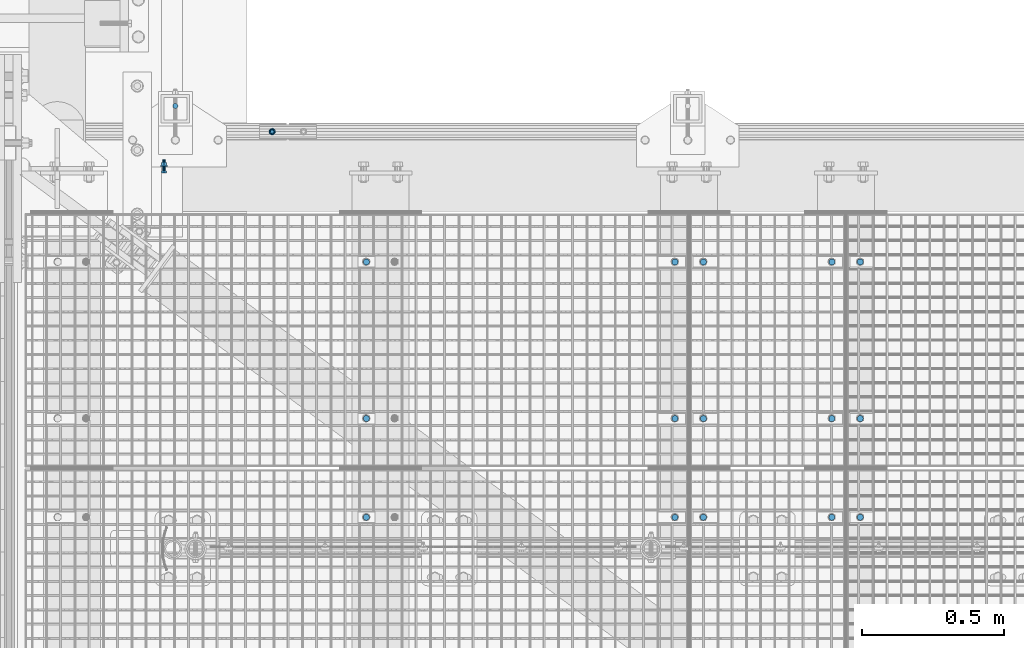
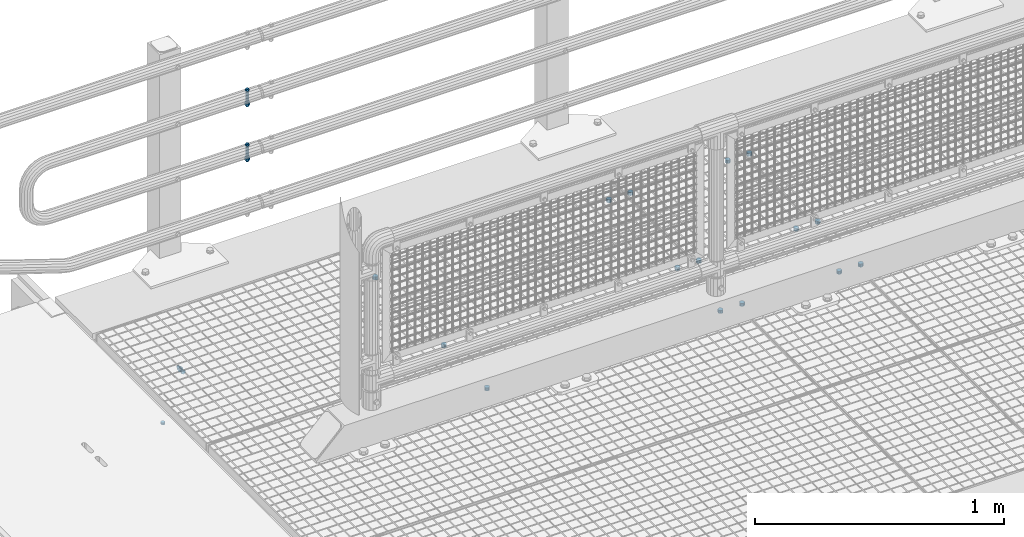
# One storey, part 74 of 1530: 19 mechanical fasteners.
"""IFC2X3 building model written with IfcOpenShell, lengths in millimetres."""

from ifc_helpers import new_model, si_unit, frame, origin_with_axes, place, context, subcontext, project, spatial, faceted_brep, source, transform, mapped, material, type_object, element, save


model = new_model("IFC2X3")

# Units and contexts
model_context = context("Model", 3, precision=1e-05, world=origin_with_axes())
body_context = subcontext(model_context, "Body", "Model", "MODEL_VIEW")
ifc_project = project(units=[si_unit("LENGTHUNIT", "METRE", prefix="MILLI"), si_unit("AREAUNIT", "SQUARE_METRE"), si_unit("VOLUMEUNIT", "CUBIC_METRE"), si_unit("MASSUNIT", "GRAM", prefix="KILO"), si_unit("TIMEUNIT", "SECOND"), si_unit("PLANEANGLEUNIT", "RADIAN"), si_unit("SOLIDANGLEUNIT", "STERADIAN"), si_unit("THERMODYNAMICTEMPERATUREUNIT", "DEGREE_CELSIUS"), si_unit("LUMINOUSINTENSITYUNIT", "LUMEN")], contexts=[model_context])

# Site, building, storey
site_placement = place(None, origin_with_axes())
site = spatial("IfcSite", under=ifc_project, at=site_placement, Name="Brattvåg", CompositionType="ELEMENT")
building_placement = place(site_placement, origin_with_axes())
building = spatial("IfcBuilding", under=site, at=building_placement, Name="Undefined", CompositionType="ELEMENT")
storey_placement = place(building_placement, origin_with_axes())
storey = spatial("IfcBuildingStorey", under=building, at=storey_placement, Name="Undefined", CompositionType="ELEMENT", Elevation=0.0)

# Mechanical fasteners
ifc_material = material(Name="8")
mechanical_fastener_type = type_object("IfcMechanicalFastenerType", Name="Bolt assembly")
shared_shape_1 = source(origin_with_axes(), body_context, "Body", "Brep", [
    faceted_brep([(10.3923048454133, -7.49999965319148, 0.0), (5.19615242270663, -7.49999965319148, 9.0), (-5.19615242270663, -7.49999965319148, 9.0), (-10.3923048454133, -7.49999965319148, 1.27269028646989e-15), (-5.19615242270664, -7.49999965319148, -9.0), (5.19615242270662, -7.49999965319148, -9.0), (5.19615242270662, 3.46808519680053e-07, -9.0), (-5.19615242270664, 3.46808519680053e-07, -9.0), (-10.3923048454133, 3.46808519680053e-07, 1.27269028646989e-15), (-5.19615242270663, 3.46808519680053e-07, 9.0), (5.19615242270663, 3.46808519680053e-07, 9.0), (10.3923048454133, 3.46808519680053e-07, 0.0), (6.0, 3.46808519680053e-07, 0.0), (5.19615242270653, 3.46808519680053e-07, 3.00000000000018), (2.99999999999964, 3.46808519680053e-07, 5.19615242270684), (-6.21801588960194e-13, 3.46808519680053e-07, 6.0), (-3.00000000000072, 3.46808519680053e-07, 5.19615242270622), (-5.19615242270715, 3.46808519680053e-07, 2.9999999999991), (-6.0, 3.46808519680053e-07, -1.24360317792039e-12), (-5.19615242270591, 3.46808519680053e-07, -3.00000000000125), (-2.99999999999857, 3.46808519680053e-07, -5.19615242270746), (1.85874342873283e-12, 3.46808519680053e-07, -6.0), (3.00000000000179, 3.46808519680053e-07, -5.1961524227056), (5.19615242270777, 3.46808519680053e-07, -2.99999999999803), (5.19615242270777, 40.0000003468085, -2.99999999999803), (3.00000000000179, 40.0000003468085, -5.1961524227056), (1.85874342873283e-12, 40.0000003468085, -6.0), (-2.99999999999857, 40.0000003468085, -5.19615242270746), (-5.19615242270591, 40.0000003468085, -3.00000000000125), (-6.0, 40.0000003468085, -1.24360317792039e-12), (-5.19615242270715, 40.0000003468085, 2.9999999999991), (-3.00000000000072, 40.0000003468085, 5.19615242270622), (-6.21801588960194e-13, 40.0000003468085, 6.0), (2.99999999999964, 40.0000003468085, 5.19615242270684), (5.19615242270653, 40.0000003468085, 3.00000000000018), (6.0, 40.0000003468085, 0.0), (12.0, 16.0000003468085, 0.0), (10.3923048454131, 16.0000003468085, 6.00000000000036), (5.99999999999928, 16.0000003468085, 10.3923048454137), (-1.24360317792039e-12, 16.0000003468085, 12.0), (-6.00000000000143, 16.0000003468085, 10.3923048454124), (-10.3923048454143, 16.0000003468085, 5.99999999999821), (-12.0, 16.0000003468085, -2.48720635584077e-12), (-10.3923048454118, 16.0000003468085, -6.00000000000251), (-5.99999999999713, 16.0000003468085, -10.3923048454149), (3.71748685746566e-12, 16.0000003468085, -12.0), (6.00000000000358, 16.0000003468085, -10.3923048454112), (10.3923048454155, 16.0000003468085, -5.99999999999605), (10.3923048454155, 18.5000003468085, -5.99999999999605), (6.00000000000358, 18.5000003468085, -10.3923048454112), (3.71748685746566e-12, 18.5000003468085, -12.0), (-5.99999999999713, 18.5000003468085, -10.3923048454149), (-10.3923048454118, 18.5000003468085, -6.00000000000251), (-12.0, 18.5000003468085, -2.48720635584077e-12), (-10.3923048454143, 18.5000003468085, 5.99999999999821), (-6.00000000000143, 18.5000003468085, 10.3923048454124), (-1.24360317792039e-12, 18.5000003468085, 12.0), (5.99999999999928, 18.5000003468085, 10.3923048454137), (10.3923048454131, 18.5000003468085, 6.00000000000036), (12.0, 18.5000003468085, 0.0), (10.3923048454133, 18.5000003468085, 0.0), (5.19615242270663, 18.5000003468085, 9.0), (-5.19615242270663, 18.5000003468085, 9.0), (-10.3923048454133, 18.5000003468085, 1.27269028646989e-15), (-5.19615242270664, 18.5000003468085, -9.0), (5.19615242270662, 18.5000003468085, -9.0), (5.19615242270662, 29.3000005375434, -9.0), (-5.19615242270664, 29.3000005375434, -9.0), (-10.3923048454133, 29.3000005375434, 1.27269028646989e-15), (-5.19615242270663, 29.3000005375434, 9.0), (5.19615242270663, 29.3000005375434, 9.0), (10.3923048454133, 29.3000005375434, 0.0)], [[[0, 1, 2, 3, 4, 5]], [[6, 7, 8, 9, 10, 11]], [[0, 11, 10, 1]], [[1, 10, 9, 2]], [[2, 9, 8, 3]], [[3, 8, 7, 4]], [[4, 7, 6, 5]], [[5, 6, 11, 0]], [[12, 13, 14, 15, 16, 17, 18, 19, 20, 21, 22, 23]], [[24, 25, 26, 27, 28, 29, 30, 31, 32, 33, 34, 35]], [[12, 35, 34, 13]], [[13, 34, 33, 14]], [[14, 33, 32, 15]], [[15, 32, 31, 16]], [[16, 31, 30, 17]], [[17, 30, 29, 18]], [[18, 29, 28, 19]], [[19, 28, 27, 20]], [[20, 27, 26, 21]], [[21, 26, 25, 22]], [[22, 25, 24, 23]], [[23, 24, 35, 12]], [[36, 37, 38, 39, 40, 41, 42, 43, 44, 45, 46, 47]], [[48, 49, 50, 51, 52, 53, 54, 55, 56, 57, 58, 59]], [[36, 59, 58, 37]], [[37, 58, 57, 38]], [[38, 57, 56, 39]], [[39, 56, 55, 40]], [[40, 55, 54, 41]], [[41, 54, 53, 42]], [[42, 53, 52, 43]], [[43, 52, 51, 44]], [[44, 51, 50, 45]], [[45, 50, 49, 46]], [[46, 49, 48, 47]], [[47, 48, 59, 36]], [[60, 61, 62, 63, 64, 65]], [[66, 67, 68, 69, 70, 71]], [[60, 71, 70, 61]], [[61, 70, 69, 62]], [[62, 69, 68, 63]], [[63, 68, 67, 64]], [[64, 67, 66, 65]], [[65, 66, 71, 60]]]),
    faceted_brep([(6.0, 3.46808519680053e-07, 0.0), (5.19615242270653, 3.46808519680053e-07, 3.00000000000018), (2.99999999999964, 3.46808519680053e-07, 5.19615242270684), (-6.21801588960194e-13, 3.46808519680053e-07, 6.0), (-3.00000000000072, 3.46808519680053e-07, 5.19615242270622), (-5.19615242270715, 3.46808519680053e-07, 2.9999999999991), (-6.0, 3.46808519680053e-07, -1.24360317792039e-12), (-5.19615242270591, 3.46808519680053e-07, -3.00000000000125), (-2.99999999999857, 3.46808519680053e-07, -5.19615242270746), (1.85874342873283e-12, 3.46808519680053e-07, -6.0), (3.00000000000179, 3.46808519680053e-07, -5.1961524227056), (5.19615242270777, 3.46808519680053e-07, -2.99999999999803), (5.19615242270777, 16.1000003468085, -2.99999999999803), (3.00000000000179, 16.1000003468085, -5.1961524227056), (1.85874342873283e-12, 16.1000003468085, -6.0), (-2.99999999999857, 16.1000003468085, -5.19615242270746), (-5.19615242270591, 16.1000003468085, -3.00000000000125), (-6.0, 16.1000003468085, -1.24360317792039e-12), (-5.19615242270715, 16.1000003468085, 2.9999999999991), (-3.00000000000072, 16.1000003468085, 5.19615242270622), (-6.21801588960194e-13, 16.1000003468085, 6.0), (2.99999999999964, 16.1000003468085, 5.19615242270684), (5.19615242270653, 16.1000003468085, 3.00000000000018), (6.0, 16.1000003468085, 0.0)], [[[0, 1, 2, 3, 4, 5, 6, 7, 8, 9, 10, 11]], [[12, 13, 14, 15, 16, 17, 18, 19, 20, 21, 22, 23]], [[0, 23, 22, 1]], [[1, 22, 21, 2]], [[2, 21, 20, 3]], [[3, 20, 19, 4]], [[4, 19, 18, 5]], [[5, 18, 17, 6]], [[6, 17, 16, 7]], [[7, 16, 15, 8]], [[8, 15, 14, 9]], [[9, 14, 13, 10]], [[10, 13, 12, 11]], [[11, 12, 23, 0]]]),
])
mechanical_fastener_1_placement = place(storey_placement, frame((510.0, 8991.99999965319, -445.0), z_axis=(-1.0, 1.99999855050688e-09, 0.0), x_axis=(0.0, 0.0, 1.0)))
element("IfcMechanicalFastener", 1, at=mechanical_fastener_1_placement, inside=storey, type_object=mechanical_fastener_type, material=ifc_material, Name="Bolt assembly", NominalDiameter=12.0, NominalLength=40.0, context=body_context, shape_type="MappedRepresentation", body=[
    mapped(shared_shape_1, transform((0.0, 0.0, 0.0))),
])
shared_shape_2 = source(origin_with_axes(), body_context, "Body", "Brep", [
    faceted_brep([(11.0, -4.99999999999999, 0.0), (9.52627944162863, -4.99999999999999, 5.50000000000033), (5.49999999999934, -4.99999999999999, 9.5262794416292), (-1.13996957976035e-12, -4.99999999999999, 11.0), (-5.50000000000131, -4.99999999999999, 9.52627944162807), (-9.52627944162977, -4.99999999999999, 5.49999999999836), (-11.0, -4.99999999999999, -2.27993915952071e-12), (-9.5262794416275, -4.99999999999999, -5.5000000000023), (-5.49999999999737, -4.99999999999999, -9.52627944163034), (3.40769628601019e-12, -4.99999999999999, -11.0), (5.50000000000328, -4.99999999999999, -9.52627944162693), (9.52627944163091, -4.99999999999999, -5.49999999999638), (9.52627944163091, 10.1, -5.49999999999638), (5.50000000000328, 10.1, -9.52627944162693), (3.40769628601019e-12, 10.1, -11.0), (-5.49999999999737, 10.1, -9.52627944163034), (-9.5262794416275, 10.1, -5.5000000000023), (-11.0, 10.1, -2.27993915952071e-12), (-9.52627944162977, 10.1, 5.49999999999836), (-5.50000000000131, 10.1, 9.52627944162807), (-1.13996957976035e-12, 10.1, 11.0), (5.49999999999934, 10.1, 9.5262794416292), (9.52627944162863, 10.1, 5.50000000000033), (11.0, 10.1, 0.0)], [[[0, 1, 2, 3, 4, 5, 6, 7, 8, 9, 10, 11]], [[12, 13, 14, 15, 16, 17, 18, 19, 20, 21, 22, 23]], [[0, 23, 22, 1]], [[1, 22, 21, 2]], [[2, 21, 20, 3]], [[3, 20, 19, 4]], [[4, 19, 18, 5]], [[5, 18, 17, 6]], [[6, 17, 16, 7]], [[7, 16, 15, 8]], [[8, 15, 14, 9]], [[9, 14, 13, 10]], [[10, 13, 12, 11]], [[11, 12, 23, 0]]]),
])
for number, where, z_axis, x_axis, name in (
    (2, (2856.01522064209, 8121.91931152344, -35.0), (0.0, -1.0, 0.0), (-1.0, 1.99999855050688e-09, 0.0), "Bolt assembly"),
    (3, (2856.01522064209, 8671.99411010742, -35.0), (0.0, -1.0, 0.0), (-1.0, 1.99999855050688e-09, 0.0), "Bolt assembly"),
    (4, (2405.00477935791, 8121.91931152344, -35.0), (0.0, 1.0, 0.0), (1.0, 0.0, 0.0), "Bolt assembly"),
    (5, (2405.00477935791, 8671.99411010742, -35.0), (0.0, 1.0, 0.0), (1.0, 0.0, 0.0), "Bolt assembly"),
    (6, (2305.01487731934, 8671.99411010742, -35.0), (0.0, -1.0, 0.0), (-1.0, 1.99999855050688e-09, 0.0), "Bolt assembly"),
    (7, (2305.01487731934, 8121.9204864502, -35.0), (0.0, -1.0, 0.0), (-1.0, 1.99999855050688e-09, 0.0), "Bolt assembly"),
    (8, (1220.93456069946, 8671.99565124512, -35.0), (0.0, -1.0, 0.0), (-1.0, 1.99999855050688e-09, 0.0), "Bolt assembly"),
    (9, (1220.93192543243, 8121.99, -35.0), (0.0, -1.0, 0.0), (-1.0, 1.99999855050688e-09, 0.0), "Bolt assembly"),
    (10, (2856.01522064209, 7774.99411010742, -35.0), (0.0, -1.0, 0.0), (-1.0, 1.99999855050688e-09, 0.0), "Bolt assembly"),
    (11, (2405.00477935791, 7774.99411010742, -35.0), (0.0, 1.0, 0.0), (1.0, 0.0, 0.0), "Bolt assembly"),
    (12, (2305.01487731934, 7774.99411010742, -35.0), (0.0, -1.0, 0.0), (-1.0, 1.99999855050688e-09, 0.0), "Bolt assembly"),
    (13, (1220.93456069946, 7774.99565124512, -35.0), (0.0, -1.0, 0.0), (-1.0, 1.99999855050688e-09, 0.0), "Bolt assembly"),
    (14, (2956.00477935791, 8121.98931152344, -35.0), (0.0, 1.0, 0.0), (1.0, 0.0, 0.0), "Bolt assembly"),
    (15, (2956.00477935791, 8671.99411010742, -35.0), (0.0, 1.0, 0.0), (1.0, 0.0, 0.0), "Bolt assembly"),
    (16, (2956.00477935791, 7774.99411010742, -35.0), (0.0, 1.0, 0.0), (1.0, 0.0, 0.0), "Bolt assembly"),
):
    element("IfcMechanicalFastener", number, at=place(storey_placement, frame(where, z_axis=z_axis, x_axis=x_axis)), inside=storey, type_object=mechanical_fastener_type, material=ifc_material, Name=name, NominalDiameter=20.0, NominalLength=15.0, context=body_context, shape_type="MappedRepresentation", body=[
        mapped(shared_shape_2, transform((0.0, 0.0, 0.0))),
    ])
shared_shape_3 = source(origin_with_axes(), body_context, "Body", "Brep", [
    faceted_brep([(9.0, -0.000108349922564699, 0.0), (7.79422863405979, -0.000108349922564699, 4.50000000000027), (4.49999999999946, -0.000108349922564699, 7.79422863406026), (-9.3270238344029e-13, -0.000108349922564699, 9.0), (-4.50000000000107, -0.000108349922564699, 7.79422863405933), (-7.79422863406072, -0.000108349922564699, 4.49999999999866), (-9.0, -0.000108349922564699, -1.86540476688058e-12), (-7.79422863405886, -0.000108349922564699, -4.50000000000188), (-4.49999999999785, -0.000108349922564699, -7.79422863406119), (2.78811514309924e-12, -0.000108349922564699, -9.0), (4.50000000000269, -0.000108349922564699, -7.7942286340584), (7.79422863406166, -0.000108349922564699, -4.49999999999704), (7.79422863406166, 10.0998916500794, -4.49999999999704), (4.50000000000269, 10.0998916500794, -7.7942286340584), (2.78811514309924e-12, 10.0998916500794, -9.0), (-4.49999999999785, 10.0998916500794, -7.79422863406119), (-7.79422863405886, 10.0998916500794, -4.50000000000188), (-9.0, 10.0998916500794, -1.86540476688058e-12), (-7.79422863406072, 10.0998916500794, 4.49999999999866), (-4.50000000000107, 10.0998916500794, 7.79422863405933), (-9.3270238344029e-13, 10.0998916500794, 9.0), (4.49999999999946, 10.0998916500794, 7.79422863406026), (7.79422863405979, 10.0998916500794, 4.50000000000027), (9.0, 10.0998916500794, 0.0)], [[[0, 1, 2, 3, 4, 5, 6, 7, 8, 9, 10, 11]], [[12, 13, 14, 15, 16, 17, 18, 19, 20, 21, 22, 23]], [[0, 23, 22, 1]], [[1, 22, 21, 2]], [[2, 21, 20, 3]], [[3, 20, 19, 4]], [[4, 19, 18, 5]], [[5, 18, 17, 6]], [[6, 17, 16, 7]], [[7, 16, 15, 8]], [[8, 15, 14, 9]], [[9, 14, 13, 10]], [[10, 13, 12, 11]], [[11, 12, 23, 0]]]),
])
mechanical_fastener_2_placement = place(storey_placement, frame((550.000160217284, 9219.99992874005, -855.000061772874), z_axis=(-1.0, 1.99999855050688e-09, 0.0), x_axis=(0.0, -0.99999999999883, 1.53000000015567e-06)))
element("IfcMechanicalFastener", 17, at=mechanical_fastener_2_placement, inside=storey, type_object=mechanical_fastener_type, material=ifc_material, Name="Bolt assembly", NominalDiameter=16.0, NominalLength=10.0001087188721, context=body_context, shape_type="MappedRepresentation", body=[
    mapped(shared_shape_3, transform((0.0, 0.0, 0.0))),
])
shared_shape_4 = source(origin_with_axes(), body_context, "Body", "Brep", [
    faceted_brep([(6.49435320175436, -7.79994685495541, 0.0), (4.59220118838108, -7.79994685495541, 4.59220118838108), (3.97664443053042e-16, -7.79994685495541, 6.49435320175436), (-4.59220118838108, -7.79994685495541, 4.59220118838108), (-6.49435320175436, -7.79994685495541, 7.95328886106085e-16), (-4.59220118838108, -7.79994685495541, -4.59220118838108), (-1.19299332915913e-15, -7.79994685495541, -6.49435320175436), (4.59220118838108, -7.79994685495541, -4.59220118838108), (7.34846922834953, -0.299946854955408, -7.34846922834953), (-1.90903542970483e-15, -0.299946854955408, -10.3923048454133), (-7.34846922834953, -0.299946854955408, -7.34846922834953), (-10.3923048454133, -0.299946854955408, 1.27269028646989e-15), (-7.34846922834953, -0.299946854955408, 7.34846922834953), (6.36345143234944e-16, -0.299946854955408, 10.3923048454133), (7.34846922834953, -0.299946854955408, 7.34846922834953), (10.3923048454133, -0.299946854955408, 0.0), (6.0, -0.299946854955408, 0.0), (5.19615242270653, -0.299946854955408, 3.00000000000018), (2.99999999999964, -0.299946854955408, 5.19615242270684), (-6.21801588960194e-13, -0.299946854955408, 6.0), (-3.00000000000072, -0.299946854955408, 5.19615242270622), (-5.19615242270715, -0.299946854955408, 2.9999999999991), (-6.0, -0.299946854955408, -1.24360317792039e-12), (-5.19615242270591, -0.299946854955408, -3.00000000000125), (-2.99999999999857, -0.299946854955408, -5.19615242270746), (1.85874342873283e-12, -0.299946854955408, -6.0), (3.00000000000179, -0.299946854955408, -5.1961524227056), (5.19615242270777, -0.299946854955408, -2.99999999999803), (5.19615242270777, 79.7000531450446, -2.99999999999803), (3.00000000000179, 79.7000531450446, -5.1961524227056), (1.85874342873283e-12, 79.7000531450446, -6.0), (-2.99999999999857, 79.7000531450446, -5.19615242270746), (-5.19615242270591, 79.7000531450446, -3.00000000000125), (-6.0, 79.7000531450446, -1.24360317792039e-12), (-5.19615242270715, 79.7000531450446, 2.9999999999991), (-3.00000000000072, 79.7000531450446, 5.19615242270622), (-6.21801588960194e-13, 79.7000531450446, 6.0), (2.99999999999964, 79.7000531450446, 5.19615242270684), (5.19615242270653, 79.7000531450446, 3.00000000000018), (6.0, 79.7000531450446, 0.0), (12.0, 59.9989488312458, 0.0), (10.3923048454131, 59.9989488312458, 6.00000000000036), (5.99999999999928, 59.9989488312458, 10.3923048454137), (-1.24360317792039e-12, 59.9989488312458, 12.0), (-6.00000000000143, 59.9989488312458, 10.3923048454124), (-10.3923048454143, 59.9989488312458, 5.99999999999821), (-12.0, 59.9989488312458, -2.48720635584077e-12), (-10.3923048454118, 59.9989488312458, -6.00000000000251), (-5.99999999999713, 59.9989488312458, -10.3923048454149), (3.71748685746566e-12, 59.9989488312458, -12.0), (6.00000000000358, 59.9989488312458, -10.3923048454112), (10.3923048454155, 59.9989488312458, -5.99999999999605), (10.3923048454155, 62.4989488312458, -5.99999999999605), (6.00000000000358, 62.4989488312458, -10.3923048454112), (3.71748685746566e-12, 62.4989488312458, -12.0), (-5.99999999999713, 62.4989488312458, -10.3923048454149), (-10.3923048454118, 62.4989488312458, -6.00000000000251), (-12.0, 62.4989488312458, -2.48720635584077e-12), (-10.3923048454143, 62.4989488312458, 5.99999999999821), (-6.00000000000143, 62.4989488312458, 10.3923048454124), (-1.24360317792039e-12, 62.4989488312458, 12.0), (5.99999999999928, 62.4989488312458, 10.3923048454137), (10.3923048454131, 62.4989488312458, 6.00000000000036), (12.0, 62.4989488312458, 0.0), (10.9696551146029, 62.4989488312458, 0.0), (5.48482755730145, 62.4989488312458, 9.5), (-5.48482755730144, 62.4989488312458, 9.5), (-10.9696551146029, 62.4989488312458, 1.34339530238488e-15), (-5.48482755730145, 62.4989488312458, -9.5), (5.48482755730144, 62.4989488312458, -9.5), (5.48482755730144, 73.2989490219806, -9.5), (-5.48482755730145, 73.2989490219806, -9.5), (-10.9696551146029, 73.2989490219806, 1.34339530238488e-15), (-5.48482755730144, 73.2989490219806, 9.5), (5.48482755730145, 73.2989490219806, 9.5), (10.9696551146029, 73.2989490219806, 0.0)], [[[0, 1, 2, 3, 4, 5, 6, 7]], [[8, 9, 10, 11, 12, 13, 14, 15]], [[0, 15, 14, 1]], [[1, 14, 13, 2]], [[2, 13, 12, 3]], [[3, 12, 11, 4]], [[4, 11, 10, 5]], [[5, 10, 9, 6]], [[6, 9, 8, 7]], [[7, 8, 15, 0]], [[16, 17, 18, 19, 20, 21, 22, 23, 24, 25, 26, 27]], [[28, 29, 30, 31, 32, 33, 34, 35, 36, 37, 38, 39]], [[16, 39, 38, 17]], [[17, 38, 37, 18]], [[18, 37, 36, 19]], [[19, 36, 35, 20]], [[20, 35, 34, 21]], [[21, 34, 33, 22]], [[22, 33, 32, 23]], [[23, 32, 31, 24]], [[24, 31, 30, 25]], [[25, 30, 29, 26]], [[26, 29, 28, 27]], [[27, 28, 39, 16]], [[40, 41, 42, 43, 44, 45, 46, 47, 48, 49, 50, 51]], [[52, 53, 54, 55, 56, 57, 58, 59, 60, 61, 62, 63]], [[40, 63, 62, 41]], [[41, 62, 61, 42]], [[42, 61, 60, 43]], [[43, 60, 59, 44]], [[44, 59, 58, 45]], [[45, 58, 57, 46]], [[46, 57, 56, 47]], [[47, 56, 55, 48]], [[48, 55, 54, 49]], [[49, 54, 53, 50]], [[50, 53, 52, 51]], [[51, 52, 63, 40]], [[64, 65, 66, 67, 68, 69]], [[70, 71, 72, 73, 74, 75]], [[64, 75, 74, 65]], [[65, 74, 73, 66]], [[66, 73, 72, 67]], [[67, 72, 71, 68]], [[68, 71, 70, 69]], [[69, 70, 75, 64]]]),
    faceted_brep([(6.5, -0.199946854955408, 0.0), (5.62916512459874, -0.199946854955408, 3.25000000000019), (3.24999999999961, -0.199946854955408, 5.62916512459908), (-6.7361838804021e-13, -0.199946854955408, 6.5), (-3.25000000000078, -0.199946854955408, 5.6291651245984), (-5.62916512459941, -0.199946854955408, 3.24999999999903), (-6.5, -0.199946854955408, -1.34723677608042e-12), (-5.62916512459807, -0.199946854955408, -3.25000000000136), (-3.24999999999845, -0.199946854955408, -5.62916512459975), (2.01363871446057e-12, -0.199946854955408, -6.5), (3.25000000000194, -0.199946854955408, -5.62916512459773), (5.62916512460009, -0.199946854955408, -3.24999999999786), (5.62916512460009, 60.0989488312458, -3.24999999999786), (3.25000000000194, 60.0989488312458, -5.62916512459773), (2.01363871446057e-12, 60.0989488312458, -6.5), (-3.24999999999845, 60.0989488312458, -5.62916512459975), (-5.62916512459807, 60.0989488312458, -3.25000000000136), (-6.5, 60.0989488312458, -1.34723677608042e-12), (-5.62916512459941, 60.0989488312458, 3.24999999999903), (-3.25000000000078, 60.0989488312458, 5.6291651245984), (-6.7361838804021e-13, 60.0989488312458, 6.5), (3.24999999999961, 60.0989488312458, 5.62916512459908), (5.62916512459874, 60.0989488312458, 3.25000000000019), (6.5, 60.0989488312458, 0.0), (6.5, 4.25026510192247, 0.0), (5.62916512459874, 4.25026510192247, 3.25000000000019), (3.24999999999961, 4.25026510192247, 5.62916512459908), (-6.7361838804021e-13, 4.25026510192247, 6.5), (-3.25000000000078, 4.25026510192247, 5.6291651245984), (-5.62916512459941, 4.25026510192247, 3.24999999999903), (-6.5, 4.25026510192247, -1.34723677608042e-12), (-5.62916512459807, 4.25026510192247, -3.25000000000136), (-3.24999999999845, 4.25026510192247, -5.62916512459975), (2.01363871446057e-12, 4.25026510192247, -6.5), (3.25000000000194, 4.25026510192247, -5.62916512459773), (5.62916512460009, 4.25026510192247, -3.24999999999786), (5.62916512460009, 55.3491717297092, -3.24999999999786), (3.25000000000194, 55.3491717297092, -5.62916512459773), (2.01363871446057e-12, 55.3491717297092, -6.5), (-3.24999999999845, 55.3491717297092, -5.62916512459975), (-5.62916512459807, 55.3491717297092, -3.25000000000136), (-6.5, 55.3491717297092, -1.34723677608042e-12), (-5.62916512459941, 55.3491717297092, 3.24999999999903), (-3.25000000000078, 55.3491717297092, 5.6291651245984), (-6.7361838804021e-13, 55.3491717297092, 6.5), (3.24999999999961, 55.3491717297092, 5.62916512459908), (5.62916512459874, 55.3491717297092, 3.25000000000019), (6.5, 55.3491717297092, 0.0)], [[[0, 1, 2, 3, 4, 5, 6, 7, 8, 9, 10, 11]], [[12, 13, 14, 15, 16, 17, 18, 19, 20, 21, 22, 23]], [[0, 23, 22, 1]], [[1, 22, 21, 2]], [[2, 21, 20, 3]], [[3, 20, 19, 4]], [[4, 19, 18, 5]], [[5, 18, 17, 6]], [[6, 17, 16, 7]], [[7, 16, 15, 8]], [[8, 15, 14, 9]], [[9, 14, 13, 10]], [[10, 13, 12, 11]], [[11, 12, 23, 0]], [[24, 25, 26, 27, 28, 29, 30, 31, 32, 33, 34, 35]], [[36, 37, 38, 39, 40, 41, 42, 43, 44, 45, 46, 47]], [[24, 47, 46, 25]], [[25, 46, 45, 26]], [[26, 45, 44, 27]], [[27, 44, 43, 28]], [[28, 43, 42, 29]], [[29, 42, 41, 30]], [[30, 41, 40, 31]], [[31, 40, 39, 32]], [[32, 39, 38, 33]], [[33, 38, 37, 34]], [[34, 37, 36, 35]], [[35, 36, 47, 24]]]),
])
mechanical_fastener_3_placement = place(storey_placement, frame((890.000137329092, 9129.84988021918, 449.7000579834), z_axis=(1.0, 0.0, 0.0), x_axis=(0.0, -0.999999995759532, -9.20919999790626e-05)))
element("IfcMechanicalFastener", 18, at=mechanical_fastener_3_placement, inside=storey, type_object=mechanical_fastener_type, material=ifc_material, Name="Bolt assembly", NominalDiameter=12.0, NominalLength=80.0, context=body_context, shape_type="MappedRepresentation", body=[
    mapped(shared_shape_4, transform((0.0, 0.0, 0.0))),
])
shared_shape_5 = source(origin_with_axes(), body_context, "Body", "Brep", [
    faceted_brep([(6.49435320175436, -7.50000000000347, 0.0), (4.59220118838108, -7.50000000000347, 4.59220118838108), (3.97664443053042e-16, -7.50000000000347, 6.49435320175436), (-4.59220118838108, -7.50000000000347, 4.59220118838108), (-6.49435320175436, -7.50000000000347, 7.95328886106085e-16), (-4.59220118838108, -7.50000000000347, -4.59220118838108), (-1.19299332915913e-15, -7.50000000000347, -6.49435320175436), (4.59220118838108, -7.50000000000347, -4.59220118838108), (7.34846922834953, -3.46744855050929e-12, -7.34846922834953), (-1.90903542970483e-15, -3.46744855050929e-12, -10.3923048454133), (-7.34846922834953, -3.46744855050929e-12, -7.34846922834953), (-10.3923048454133, 3.46808519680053e-07, 1.27269028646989e-15), (-7.34846922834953, -3.46744855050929e-12, 7.34846922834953), (6.36345143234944e-16, -3.46744855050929e-12, 10.3923048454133), (7.34846922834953, -3.46744855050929e-12, 7.34846922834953), (10.3923048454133, 3.46808519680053e-07, 0.0), (6.0, 3.46808519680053e-07, 0.0), (5.19615242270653, 3.46808519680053e-07, 3.00000000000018), (2.99999999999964, 3.46808519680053e-07, 5.19615242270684), (-6.21801588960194e-13, 3.46808519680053e-07, 6.0), (-3.00000000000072, 3.46808519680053e-07, 5.19615242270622), (-5.19615242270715, 3.46808519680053e-07, 2.9999999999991), (-6.0, 3.46808519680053e-07, -1.24360317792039e-12), (-5.19615242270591, 3.46808519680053e-07, -3.00000000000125), (-2.99999999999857, 3.46808519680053e-07, -5.19615242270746), (1.85874342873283e-12, 3.46808519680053e-07, -6.0), (3.00000000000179, 3.46808519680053e-07, -5.1961524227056), (5.19615242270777, 3.46808519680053e-07, -2.99999999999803), (5.19615242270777, 79.9999999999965, -2.99999999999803), (3.00000000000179, 79.9999999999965, -5.1961524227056), (1.85874342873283e-12, 79.9999999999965, -6.0), (-2.99999999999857, 79.9999999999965, -5.19615242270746), (-5.19615242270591, 79.9999999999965, -3.00000000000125), (-6.0, 79.9999999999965, -1.24360317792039e-12), (-5.19615242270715, 79.9999999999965, 2.9999999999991), (-3.00000000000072, 79.9999999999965, 5.19615242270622), (-6.21801588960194e-13, 79.9999999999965, 6.0), (2.99999999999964, 79.9999999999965, 5.19615242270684), (5.19615242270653, 79.9999999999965, 3.00000000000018), (6.0, 79.9999999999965, 0.0), (12.0, 60.2988956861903, 0.0), (10.3923048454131, 60.2988956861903, 6.00000000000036), (5.99999999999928, 60.2988956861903, 10.3923048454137), (-1.24360317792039e-12, 60.2988956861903, 12.0), (-6.00000000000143, 60.2988956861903, 10.3923048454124), (-10.3923048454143, 60.2988956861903, 5.99999999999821), (-12.0, 60.2988956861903, -2.48720635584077e-12), (-10.3923048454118, 60.2988956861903, -6.00000000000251), (-5.99999999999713, 60.2988956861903, -10.3923048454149), (3.71748685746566e-12, 60.2988956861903, -12.0), (6.00000000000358, 60.2988956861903, -10.3923048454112), (10.3923048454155, 60.2988956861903, -5.99999999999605), (10.3923048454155, 62.7988956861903, -5.99999999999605), (6.00000000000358, 62.7988956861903, -10.3923048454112), (3.71748685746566e-12, 62.7988956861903, -12.0), (-5.99999999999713, 62.7988956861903, -10.3923048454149), (-10.3923048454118, 62.7988956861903, -6.00000000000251), (-12.0, 62.7988956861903, -2.48720635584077e-12), (-10.3923048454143, 62.7988956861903, 5.99999999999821), (-6.00000000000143, 62.7988956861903, 10.3923048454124), (-1.24360317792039e-12, 62.7988956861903, 12.0), (5.99999999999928, 62.7988956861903, 10.3923048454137), (10.3923048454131, 62.7988956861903, 6.00000000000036), (12.0, 62.7988956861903, 0.0), (10.9696551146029, 62.7988956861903, 0.0), (5.48482755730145, 62.7988956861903, 9.5), (-5.48482755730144, 62.7988956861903, 9.5), (-10.9696551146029, 62.7988956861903, 1.34339530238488e-15), (-5.48482755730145, 62.7988956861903, -9.5), (5.48482755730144, 62.7988956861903, -9.5), (5.48482755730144, 73.5988958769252, -9.5), (-5.48482755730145, 73.5988958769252, -9.5), (-10.9696551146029, 73.5988958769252, 1.34339530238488e-15), (-5.48482755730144, 73.5988958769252, 9.5), (5.48482755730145, 73.5988958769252, 9.5), (10.9696551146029, 73.5988958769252, 0.0)], [[[0, 1, 2, 3, 4, 5, 6, 7]], [[8, 9, 10, 11, 12, 13, 14, 15]], [[0, 15, 14, 1]], [[1, 14, 13, 2]], [[2, 13, 12, 3]], [[3, 12, 11, 4]], [[4, 11, 10, 5]], [[5, 10, 9, 6]], [[6, 9, 8, 7]], [[7, 8, 15, 0]], [[16, 17, 18, 19, 20, 21, 22, 23, 24, 25, 26, 27]], [[28, 29, 30, 31, 32, 33, 34, 35, 36, 37, 38, 39]], [[16, 39, 38, 17]], [[17, 38, 37, 18]], [[18, 37, 36, 19]], [[19, 36, 35, 20]], [[20, 35, 34, 21]], [[21, 34, 33, 22]], [[22, 33, 32, 23]], [[23, 32, 31, 24]], [[24, 31, 30, 25]], [[25, 30, 29, 26]], [[26, 29, 28, 27]], [[27, 28, 39, 16]], [[40, 41, 42, 43, 44, 45, 46, 47, 48, 49, 50, 51]], [[52, 53, 54, 55, 56, 57, 58, 59, 60, 61, 62, 63]], [[40, 63, 62, 41]], [[41, 62, 61, 42]], [[42, 61, 60, 43]], [[43, 60, 59, 44]], [[44, 59, 58, 45]], [[45, 58, 57, 46]], [[46, 57, 56, 47]], [[47, 56, 55, 48]], [[48, 55, 54, 49]], [[49, 54, 53, 50]], [[50, 53, 52, 51]], [[51, 52, 63, 40]], [[64, 65, 66, 67, 68, 69]], [[70, 71, 72, 73, 74, 75]], [[64, 75, 74, 65]], [[65, 74, 73, 66]], [[66, 73, 72, 67]], [[67, 72, 71, 68]], [[68, 71, 70, 69]], [[69, 70, 75, 64]]]),
    faceted_brep([(6.5, 0.100000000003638, 0.0), (5.62916512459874, 0.100000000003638, 3.25000000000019), (3.24999999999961, 0.100000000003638, 5.62916512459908), (-6.7361838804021e-13, 0.100000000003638, 6.5), (-3.25000000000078, 0.100000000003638, 5.6291651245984), (-5.62916512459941, 0.100000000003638, 3.24999999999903), (-6.5, 0.100000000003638, -1.34723677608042e-12), (-5.62916512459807, 0.100000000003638, -3.25000000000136), (-3.24999999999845, 0.100000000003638, -5.62916512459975), (2.01363871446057e-12, 0.100000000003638, -6.5), (3.25000000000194, 0.100000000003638, -5.62916512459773), (5.62916512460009, 0.100000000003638, -3.24999999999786), (5.62916512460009, 60.3988956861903, -3.24999999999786), (3.25000000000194, 60.3988956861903, -5.62916512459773), (2.01363871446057e-12, 60.3988956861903, -6.5), (-3.24999999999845, 60.3988956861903, -5.62916512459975), (-5.62916512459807, 60.3988956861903, -3.25000000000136), (-6.5, 60.3988956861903, -1.34723677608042e-12), (-5.62916512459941, 60.3988956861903, 3.24999999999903), (-3.25000000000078, 60.3988956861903, 5.6291651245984), (-6.7361838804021e-13, 60.3988956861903, 6.5), (3.24999999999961, 60.3988956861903, 5.62916512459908), (5.62916512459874, 60.3988956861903, 3.25000000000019), (6.5, 60.3988956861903, 0.0), (6.5, 4.25026510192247, 0.0), (5.62916512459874, 4.25026510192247, 3.25000000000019), (3.24999999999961, 4.25026510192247, 5.62916512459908), (-6.7361838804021e-13, 4.25026510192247, 6.5), (-3.25000000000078, 4.25026510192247, 5.6291651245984), (-5.62916512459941, 4.25026510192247, 3.24999999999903), (-6.5, 4.25026510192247, -1.34723677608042e-12), (-5.62916512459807, 4.25026510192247, -3.25000000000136), (-3.24999999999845, 4.25026510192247, -5.62916512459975), (2.01363871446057e-12, 4.25026510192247, -6.5), (3.25000000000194, 4.25026510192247, -5.62916512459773), (5.62916512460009, 4.25026510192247, -3.24999999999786), (5.62916512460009, 55.3491717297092, -3.24999999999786), (3.25000000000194, 55.3491717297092, -5.62916512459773), (2.01363871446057e-12, 55.3491717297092, -6.5), (-3.24999999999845, 55.3491717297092, -5.62916512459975), (-5.62916512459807, 55.3491717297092, -3.25000000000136), (-6.5, 55.3491717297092, -1.34723677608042e-12), (-5.62916512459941, 55.3491717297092, 3.24999999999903), (-3.25000000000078, 55.3491717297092, 5.6291651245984), (-6.7361838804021e-13, 55.3491717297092, 6.5), (3.24999999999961, 55.3491717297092, 5.62916512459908), (5.62916512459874, 55.3491717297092, 3.25000000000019), (6.5, 55.3491717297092, 0.0)], [[[0, 1, 2, 3, 4, 5, 6, 7, 8, 9, 10, 11]], [[12, 13, 14, 15, 16, 17, 18, 19, 20, 21, 22, 23]], [[0, 23, 22, 1]], [[1, 22, 21, 2]], [[2, 21, 20, 3]], [[3, 20, 19, 4]], [[4, 19, 18, 5]], [[5, 18, 17, 6]], [[6, 17, 16, 7]], [[7, 16, 15, 8]], [[8, 15, 14, 9]], [[9, 14, 13, 10]], [[10, 13, 12, 11]], [[11, 12, 23, 0]], [[24, 25, 26, 27, 28, 29, 30, 31, 32, 33, 34, 35]], [[36, 37, 38, 39, 40, 41, 42, 43, 44, 45, 46, 47]], [[24, 47, 46, 25]], [[25, 46, 45, 26]], [[26, 45, 44, 27]], [[27, 44, 43, 28]], [[28, 43, 42, 29]], [[29, 42, 41, 30]], [[30, 41, 40, 31]], [[31, 40, 39, 32]], [[32, 39, 38, 33]], [[33, 38, 37, 34]], [[34, 37, 36, 35]], [[35, 36, 47, 24]]]),
])
mechanical_fastener_4_placement = place(storey_placement, frame((890.000137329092, 9129.84988021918, 719.7000579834), z_axis=(1.0, 0.0, 0.0), x_axis=(0.0, -0.999999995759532, -9.20919999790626e-05)))
element("IfcMechanicalFastener", 19, at=mechanical_fastener_4_placement, inside=storey, type_object=mechanical_fastener_type, material=ifc_material, Name="Bolt assembly", NominalDiameter=12.0, NominalLength=80.0, context=body_context, shape_type="MappedRepresentation", body=[
    mapped(shared_shape_5, transform((0.0, 0.0, 0.0))),
])

save(model, "model.ifc")
